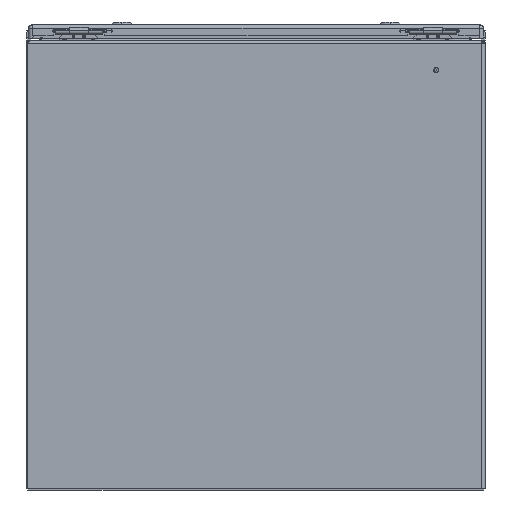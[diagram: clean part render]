
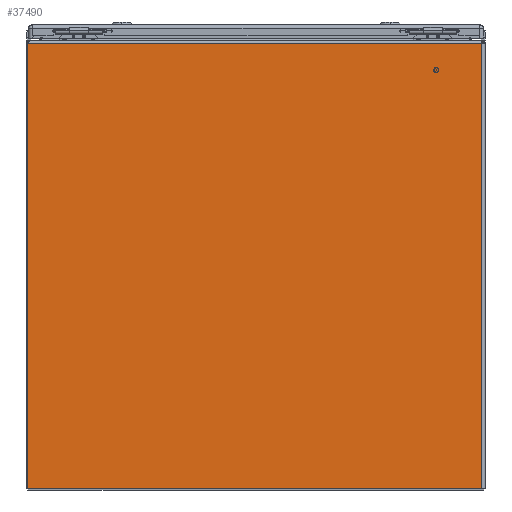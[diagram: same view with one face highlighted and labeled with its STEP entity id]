
A CAD part, left-side view. The second image highlights one B-rep face of the part: STEP entity #37490.
In plain terms, the highlighted planar face has unit normal (-1, 0, 0).
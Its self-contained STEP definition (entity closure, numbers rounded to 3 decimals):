
#26336 = VERTEX_POINT ( 'NONE', #57872 ) ;
#26338 = VERTEX_POINT ( 'NONE', #57879 ) ;
#26341 = VERTEX_POINT ( 'NONE', #57888 ) ;
#26342 = VERTEX_POINT ( 'NONE', #57892 ) ;
#37490 = ADVANCED_FACE ( 'NONE', ( #105508 ), #111393, .T. ) ;
#57872 = CARTESIAN_POINT ( 'NONE',  ( 0., 609.892, 294.653 ) ) ;
#57879 = CARTESIAN_POINT ( 'NONE',  ( 0., 609.892, -298.946 ) ) ;
#57888 = CARTESIAN_POINT ( 'NONE',  ( 0., 4.293, -298.946 ) ) ;
#57892 = CARTESIAN_POINT ( 'NONE',  ( 0., 4.293, 294.653 ) ) ;
#59893 = LINE ( 'NONE', #84688, #59926 ) ;
#59923 = LINE ( 'NONE', #84735, #59939 ) ;
#59926 = VECTOR ( 'NONE', #84694, 1000. ) ;
#59932 = LINE ( 'NONE', #84698, #59936 ) ;
#59936 = VECTOR ( 'NONE', #84700, 1000. ) ;
#59939 = VECTOR ( 'NONE', #84737, 1000. ) ;
#59953 = LINE ( 'NONE', #84751, #59958 ) ;
#59958 = VECTOR ( 'NONE', #84753, 1000. ) ;
#84688 = CARTESIAN_POINT ( 'NONE',  ( 0., 609.892, -298.946 ) ) ;
#84694 = DIRECTION ( 'NONE',  ( 0., 0., 1. ) ) ;
#84698 = CARTESIAN_POINT ( 'NONE',  ( 0., 4.293, 294.653 ) ) ;
#84700 = DIRECTION ( 'NONE',  ( 0., 1., 0. ) ) ;
#84735 = CARTESIAN_POINT ( 'NONE',  ( 0., 609.892, -298.946 ) ) ;
#84737 = DIRECTION ( 'NONE',  ( 0., 1., 0. ) ) ;
#84751 = CARTESIAN_POINT ( 'NONE',  ( 0., 4.293, -298.946 ) ) ;
#84753 = DIRECTION ( 'NONE',  ( 0., 0., 1. ) ) ;
#102825 = EDGE_CURVE ( 'NONE', #26338, #26336, #59893, .T. ) ;
#102828 = EDGE_CURVE ( 'NONE', #26342, #26336, #59932, .T. ) ;
#102842 = EDGE_CURVE ( 'NONE', #26341, #26338, #59923, .T. ) ;
#102853 = EDGE_CURVE ( 'NONE', #26341, #26342, #59953, .T. ) ;
#105508 = FACE_OUTER_BOUND ( 'NONE', #145828, .T. ) ;
#111342 = CARTESIAN_POINT ( 'NONE',  ( 0., 0., -298.946 ) ) ;
#111393 = PLANE ( 'NONE',  #150166 ) ;
#111416 = DIRECTION ( 'NONE',  ( -1., 0., 0. ) ) ;
#111420 = DIRECTION ( 'NONE',  ( 0., 0., 1. ) ) ;
#145828 = EDGE_LOOP ( 'NONE', ( #181055, #181056, #181057, #181058 ) ) ;
#150166 = AXIS2_PLACEMENT_3D ( 'NONE', #111342, #111416, #111420 ) ;
#181055 = ORIENTED_EDGE ( 'NONE', *, *, #102853, .T. ) ;
#181056 = ORIENTED_EDGE ( 'NONE', *, *, #102828, .T. ) ;
#181057 = ORIENTED_EDGE ( 'NONE', *, *, #102825, .F. ) ;
#181058 = ORIENTED_EDGE ( 'NONE', *, *, #102842, .F. ) ;
